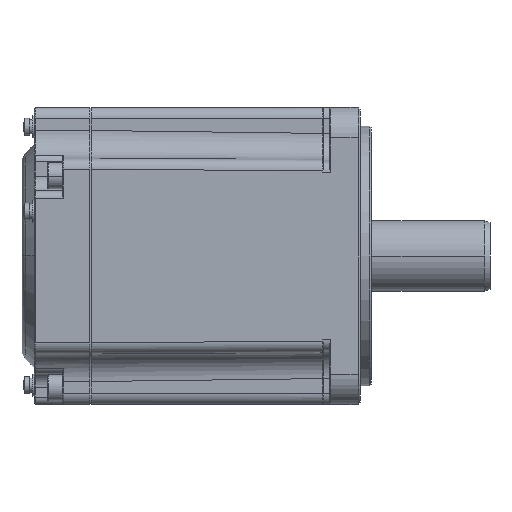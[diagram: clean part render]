
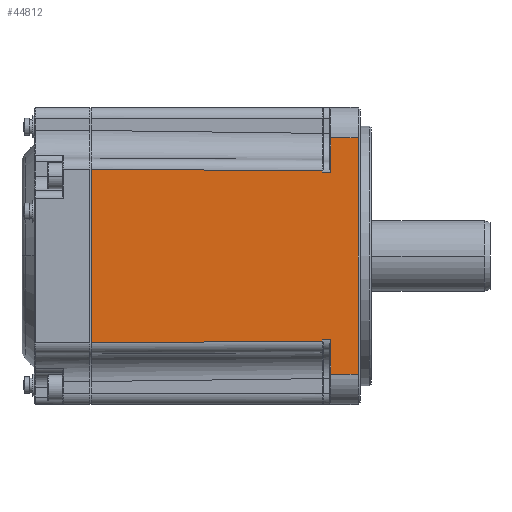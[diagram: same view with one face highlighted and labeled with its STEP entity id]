
A CAD part, front view. The second image highlights one B-rep face of the part: STEP entity #44812.
In plain terms, the highlighted planar face has unit normal (0, -1, 0).
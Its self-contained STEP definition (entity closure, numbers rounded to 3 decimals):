
#581 = ORIENTED_EDGE ( 'NONE', *, *, #164791, .T. ) ;
#1680 = CARTESIAN_POINT ( 'NONE',  ( 8.3, -40., 31.8 ) ) ;
#2265 = LINE ( 'NONE', #53297, #145684 ) ;
#4304 = CARTESIAN_POINT ( 'NONE',  ( 15.7, -40., -31.8 ) ) ;
#4446 = CARTESIAN_POINT ( 'NONE',  ( 6.1, -40., -22.5 ) ) ;
#11915 = ORIENTED_EDGE ( 'NONE', *, *, #126974, .T. ) ;
#12284 = VECTOR ( 'NONE', #77334, 1000. ) ;
#17832 = VERTEX_POINT ( 'NONE', #113905 ) ;
#17876 = LINE ( 'NONE', #159307, #53102 ) ;
#18924 = EDGE_CURVE ( 'NONE', #113675, #88599, #139495, .T. ) ;
#20783 = DIRECTION ( 'NONE',  ( 0., 0., 1. ) ) ;
#23302 = FACE_OUTER_BOUND ( 'NONE', #115612, .T. ) ;
#23751 = VECTOR ( 'NONE', #46066, 1000. ) ;
#26253 = CARTESIAN_POINT ( 'NONE',  ( -171.137, -40., -31.8 ) ) ;
#26508 = AXIS2_PLACEMENT_3D ( 'NONE', #35843, #86933, #50039 ) ;
#27162 = EDGE_CURVE ( 'NONE', #17832, #45439, #32680, .T. ) ;
#30020 = VERTEX_POINT ( 'NONE', #92731 ) ;
#32680 = LINE ( 'NONE', #68680, #156423 ) ;
#34170 = CARTESIAN_POINT ( 'NONE',  ( 6.1, -40., 40. ) ) ;
#35404 = ORIENTED_EDGE ( 'NONE', *, *, #95748, .T. ) ;
#35843 = CARTESIAN_POINT ( 'NONE',  ( -171.137, -40., 40. ) ) ;
#36574 = DIRECTION ( 'NONE',  ( 1., 0., 0. ) ) ;
#39720 = VECTOR ( 'NONE', #68103, 1000. ) ;
#44556 = VERTEX_POINT ( 'NONE', #1680 ) ;
#44812 = ADVANCED_FACE ( 'NONE', ( #23302 ), #113667, .T. ) ;
#45439 = VERTEX_POINT ( 'NONE', #70192 ) ;
#46066 = DIRECTION ( 'NONE',  ( 0., 0., -1. ) ) ;
#50039 = DIRECTION ( 'NONE',  ( 0., 0., -1. ) ) ;
#53102 = VECTOR ( 'NONE', #158478, 1000. ) ;
#53297 = CARTESIAN_POINT ( 'NONE',  ( -171.211, -40., 23.814 ) ) ;
#54713 = DIRECTION ( 'NONE',  ( 1., 0., 0.005 ) ) ;
#56276 = VERTEX_POINT ( 'NONE', #129369 ) ;
#59995 = ORIENTED_EDGE ( 'NONE', *, *, #18924, .T. ) ;
#68103 = DIRECTION ( 'NONE',  ( -1., 0., 0. ) ) ;
#68680 = CARTESIAN_POINT ( 'NONE',  ( 6.3, -40., 22.5 ) ) ;
#70192 = CARTESIAN_POINT ( 'NONE',  ( 8.3, -40., 22.5 ) ) ;
#70339 = DIRECTION ( 'NONE',  ( 1., 0., 0. ) ) ;
#71261 = CARTESIAN_POINT ( 'NONE',  ( 15.7, -40., 31.8 ) ) ;
#72085 = VERTEX_POINT ( 'NONE', #151978 ) ;
#72612 = VERTEX_POINT ( 'NONE', #162271 ) ;
#74149 = ORIENTED_EDGE ( 'NONE', *, *, #148464, .T. ) ;
#76592 = VERTEX_POINT ( 'NONE', #71261 ) ;
#77334 = DIRECTION ( 'NONE',  ( 1., 0., 0. ) ) ;
#78609 = VECTOR ( 'NONE', #80419, 1000. ) ;
#80157 = ORIENTED_EDGE ( 'NONE', *, *, #162715, .T. ) ;
#80419 = DIRECTION ( 'NONE',  ( 0., 0., 1. ) ) ;
#84433 = ORIENTED_EDGE ( 'NONE', *, *, #126989, .T. ) ;
#86375 = CARTESIAN_POINT ( 'NONE',  ( 15.7, -40., 31.8 ) ) ;
#86933 = DIRECTION ( 'NONE',  ( 0., -1., 0. ) ) ;
#87075 = EDGE_CURVE ( 'NONE', #72085, #72612, #144814, .T. ) ;
#88599 = VERTEX_POINT ( 'NONE', #133456 ) ;
#92458 = EDGE_CURVE ( 'NONE', #72612, #56276, #142619, .T. ) ;
#92484 = ORIENTED_EDGE ( 'NONE', *, *, #96173, .T. ) ;
#92675 = DIRECTION ( 'NONE',  ( 0., 0., 1. ) ) ;
#92731 = CARTESIAN_POINT ( 'NONE',  ( 6.1, -40., 23.009 ) ) ;
#95748 = EDGE_CURVE ( 'NONE', #30020, #72085, #2265, .T. ) ;
#96173 = EDGE_CURVE ( 'NONE', #56276, #113675, #135473, .T. ) ;
#104023 = ORIENTED_EDGE ( 'NONE', *, *, #87075, .T. ) ;
#105149 = VECTOR ( 'NONE', #36574, 1000. ) ;
#105195 = LINE ( 'NONE', #156247, #124473 ) ;
#108632 = CARTESIAN_POINT ( 'NONE',  ( 8.3, -40., -31.8 ) ) ;
#109293 = VERTEX_POINT ( 'NONE', #4304 ) ;
#112607 = VECTOR ( 'NONE', #118840, 1000. ) ;
#112751 = CARTESIAN_POINT ( 'NONE',  ( 6.3, -40., -22.5 ) ) ;
#112960 = VECTOR ( 'NONE', #54713, 1000. ) ;
#113667 = PLANE ( 'NONE',  #26508 ) ;
#113675 = VERTEX_POINT ( 'NONE', #4446 ) ;
#113905 = CARTESIAN_POINT ( 'NONE',  ( 6.1, -40., 22.5 ) ) ;
#115612 = EDGE_LOOP ( 'NONE', ( #35404, #104023, #138428, #92484, #59995, #74149, #160157, #80157, #11915, #84433, #155555, #581 ) ) ;
#118840 = DIRECTION ( 'NONE',  ( 0., 0., -1. ) ) ;
#123088 = LINE ( 'NONE', #161586, #23751 ) ;
#124473 = VECTOR ( 'NONE', #92675, 1000. ) ;
#126974 = EDGE_CURVE ( 'NONE', #76592, #44556, #131749, .T. ) ;
#126989 = EDGE_CURVE ( 'NONE', #44556, #45439, #17876, .T. ) ;
#129369 = CARTESIAN_POINT ( 'NONE',  ( 6.1, -40., -23.009 ) ) ;
#129443 = VECTOR ( 'NONE', #20783, 1000. ) ;
#130640 = CARTESIAN_POINT ( 'NONE',  ( -56.2, -40., 40. ) ) ;
#131749 = LINE ( 'NONE', #147580, #39720 ) ;
#133456 = CARTESIAN_POINT ( 'NONE',  ( 8.3, -40., -22.5 ) ) ;
#135473 = LINE ( 'NONE', #34170, #129443 ) ;
#138428 = ORIENTED_EDGE ( 'NONE', *, *, #92458, .T. ) ;
#139495 = LINE ( 'NONE', #112751, #105149 ) ;
#140558 = VERTEX_POINT ( 'NONE', #108632 ) ;
#140680 = LINE ( 'NONE', #86375, #78609 ) ;
#140905 = LINE ( 'NONE', #26253, #12284 ) ;
#140970 = CARTESIAN_POINT ( 'NONE',  ( -170.847, -40., -23.812 ) ) ;
#142619 = LINE ( 'NONE', #140970, #112960 ) ;
#144513 = DIRECTION ( 'NONE',  ( -1., 0., 0.005 ) ) ;
#144814 = LINE ( 'NONE', #130640, #112607 ) ;
#145563 = EDGE_CURVE ( 'NONE', #140558, #109293, #140905, .T. ) ;
#145684 = VECTOR ( 'NONE', #144513, 1000. ) ;
#147580 = CARTESIAN_POINT ( 'NONE',  ( -171.137, -40., 31.8 ) ) ;
#148464 = EDGE_CURVE ( 'NONE', #88599, #140558, #123088, .T. ) ;
#151978 = CARTESIAN_POINT ( 'NONE',  ( -56.2, -40., 23.292 ) ) ;
#155555 = ORIENTED_EDGE ( 'NONE', *, *, #27162, .F. ) ;
#156247 = CARTESIAN_POINT ( 'NONE',  ( 6.1, -40., 40. ) ) ;
#156423 = VECTOR ( 'NONE', #70339, 1000. ) ;
#158478 = DIRECTION ( 'NONE',  ( 0., 0., -1. ) ) ;
#159307 = CARTESIAN_POINT ( 'NONE',  ( 8.3, -40., 40. ) ) ;
#160157 = ORIENTED_EDGE ( 'NONE', *, *, #145563, .T. ) ;
#161586 = CARTESIAN_POINT ( 'NONE',  ( 8.3, -40., 40. ) ) ;
#162271 = CARTESIAN_POINT ( 'NONE',  ( -56.2, -40., -23.292 ) ) ;
#162715 = EDGE_CURVE ( 'NONE', #109293, #76592, #140680, .T. ) ;
#164791 = EDGE_CURVE ( 'NONE', #17832, #30020, #105195, .T. ) ;
